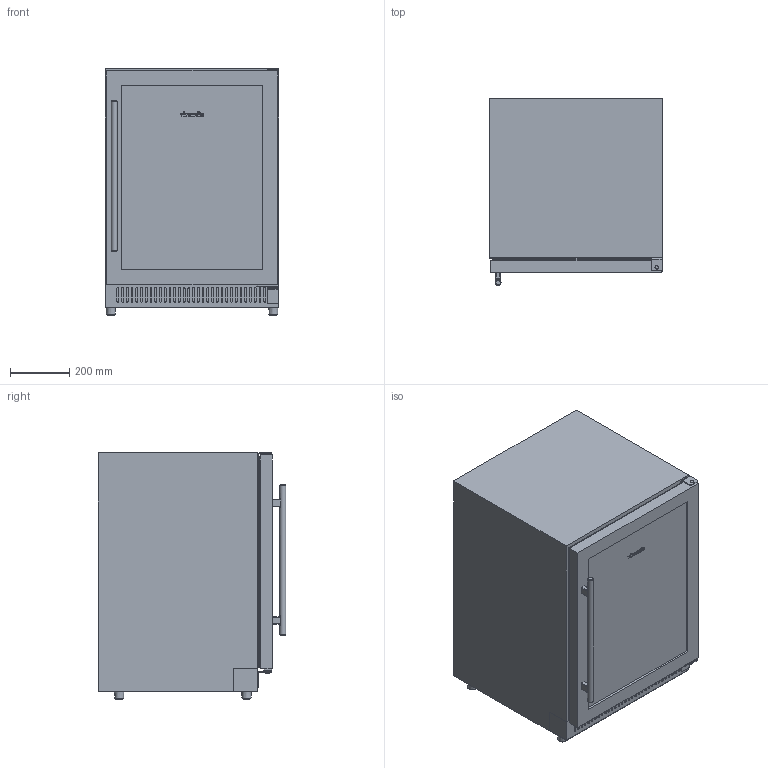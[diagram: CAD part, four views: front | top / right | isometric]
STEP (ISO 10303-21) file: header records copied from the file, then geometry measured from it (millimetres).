
FILE_DESCRIPTION(/* description */ (''),/* implementation_level */ '2;1');
FILE_NAME(/* name */ 'FS1-150-R.1_MOCKUP.step',/* time_stamp */ '2026-03-11T16:17:52+01:00',/* author */ (''),/* organization */ (''),/* preprocessor_version */ 'ST-DEVELOPER v20.1',/* originating_system */ 'Autodesk Translation Framework v14.24.0.0',/* authorisation */ '');
FILE_SCHEMA (('AUTOMOTIVE_DESIGN { 1 0 10303 214 3 1 1 }'));
Length unit declared in the file: millimetre
Products named in the file (5): FS1-150-R.1_MOCKUP; Main Corpus; Door; Interiour; Shelf
Assembly tree (6 placements, depth 3):
  FS1-150-R.1_MOCKUP
    Main Corpus
    Door
    Interiour
      Shelf  x3
Bounding box: 585 x 631 x 829 mm (x, y, z)
Volume: 99512910 mm3; surface area: 6290899.1 mm2
Topology: 102 solids, 102 shells, 1224 faces, 3016 edges, 1983 vertices
Faces by surface type: plane 400, torus 334, cylinder 227, cone 154, bspline 101, sphere 8
Full cylindrical faces by diameter (mm): 3 x72, 5 x18, 6 x12, 11 x4, 12 x2, 15 x2, 20 x1
Entity records: 25200 total; most frequent: CARTESIAN_POINT 7010, DIRECTION 3803, ORIENTED_EDGE 3688, EDGE_CURVE 1844, AXIS2_PLACEMENT_3D 1471, VERTEX_POINT 1207, LINE 861, VECTOR 861
